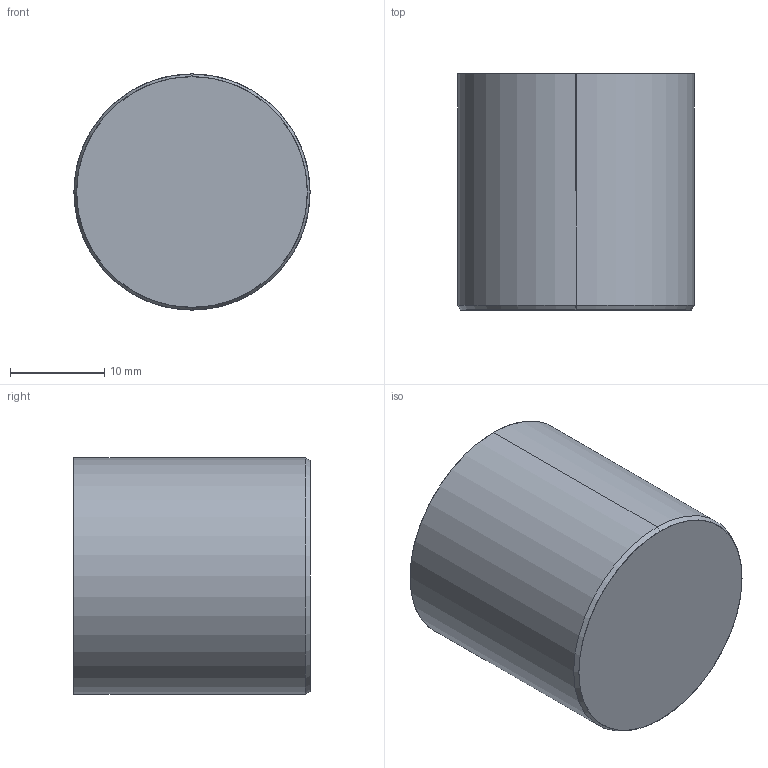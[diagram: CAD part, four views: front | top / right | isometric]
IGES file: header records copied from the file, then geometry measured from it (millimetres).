
Start section: SolidWorks IGES file using analytic representation for surfaces
Global section: file name: G:\Projetos\Matripeças\Datador dia\DAT25D.IGS; native system: SolidWorks 2013; preprocessor: SolidWorks 2013; author: cleonir; date: 130327.213958; units: millimetre
Bounding box: 25 x 25 x 25 mm (x, y, z)
Surface area: 2975.4 mm2 (no closed solid volume)
Topology: 0 solids, 0 shells, 255 faces, 2934 edges, 2934 vertices
Faces by surface type: bspline 243, revolution 12
